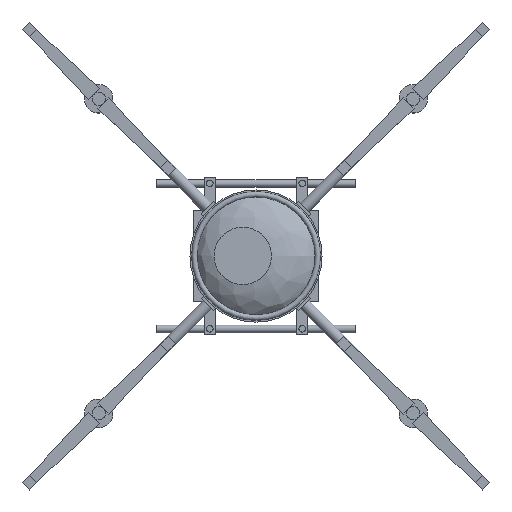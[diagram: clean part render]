
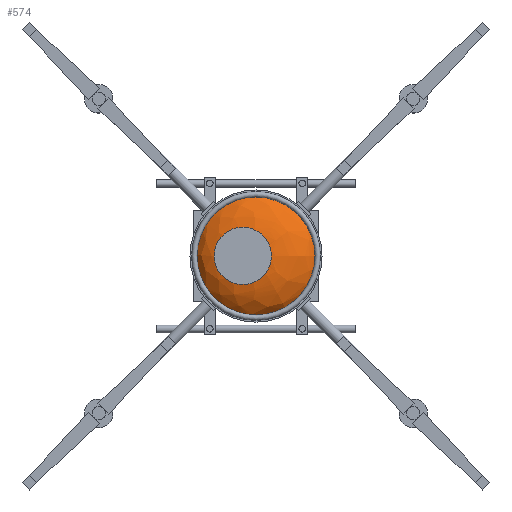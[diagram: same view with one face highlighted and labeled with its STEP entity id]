
A CAD part, top view. The second image highlights one B-rep face of the part: STEP entity #574.
In plain terms, the highlighted free-form (B-spline) face has degree [2, 2] with [7, 3] control points.
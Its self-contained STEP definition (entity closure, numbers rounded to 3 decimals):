
#574 = ADVANCED_FACE('',(#575),#598,.T.);
#575 = FACE_BOUND('',#576,.T.);
#576 = EDGE_LOOP('',(#577,#587,#597));
#577 = ORIENTED_EDGE('',*,*,#578,.F.);
#578 = EDGE_CURVE('',#579,#581,#583,.T.);
#579 = VERTEX_POINT('',#580);
#580 = CARTESIAN_POINT('',(114.,0.,34.));
#581 = VERTEX_POINT('',#582);
#582 = CARTESIAN_POINT('',(0.,0.,82.));
#583 = ( BOUNDED_CURVE() B_SPLINE_CURVE(2,(#584,#585,#586),
.UNSPECIFIED.,.F.,.F.) B_SPLINE_CURVE_WITH_KNOTS((3,3),(6.283,
7.854),.PIECEWISE_BEZIER_KNOTS.) CURVE() 
GEOMETRIC_REPRESENTATION_ITEM() RATIONAL_B_SPLINE_CURVE((1.,
0.707,1.)) REPRESENTATION_ITEM('') );
#584 = CARTESIAN_POINT('',(114.,0.,34.));
#585 = CARTESIAN_POINT('',(114.,0.,82.));
#586 = CARTESIAN_POINT('',(0.,0.,82.));
#587 = ORIENTED_EDGE('',*,*,#588,.T.);
#588 = EDGE_CURVE('',#579,#579,#589,.T.);
#589 = ( BOUNDED_CURVE() B_SPLINE_CURVE(2,(#590,#591,#592,#593,#594,#595
,#596),.UNSPECIFIED.,.T.,.F.) B_SPLINE_CURVE_WITH_KNOTS((1,2,2,2,2,1),(
    -2.094,0.,2.094,4.189,6.283,
8.378),.UNSPECIFIED.) CURVE() GEOMETRIC_REPRESENTATION_ITEM() 
RATIONAL_B_SPLINE_CURVE((1.,0.5,1.,0.5,1.,0.5,1.)) REPRESENTATION_ITEM(
  '') );
#590 = CARTESIAN_POINT('',(114.,0.,34.));
#591 = CARTESIAN_POINT('',(114.,197.454,34.));
#592 = CARTESIAN_POINT('',(-57.,98.727,34.));
#593 = CARTESIAN_POINT('',(-228.,0.,34.));
#594 = CARTESIAN_POINT('',(-57.,-98.727,34.));
#595 = CARTESIAN_POINT('',(114.,-197.454,34.));
#596 = CARTESIAN_POINT('',(114.,0.,34.));
#597 = ORIENTED_EDGE('',*,*,#578,.T.);
#598 = ( BOUNDED_SURFACE() B_SPLINE_SURFACE(2,2,(
    (#599,#600,#601)
    ,(#602,#603,#604)
    ,(#605,#606,#607)
    ,(#608,#609,#610)
    ,(#611,#612,#613)
    ,(#614,#615,#616)
    ,(#617,#618,#619
)),.UNSPECIFIED.,.T.,.F.,.F.) B_SPLINE_SURFACE_WITH_KNOTS((1,2,2,2,2,1),
  (3,3),(-2.094,0.,2.094,4.189,6.283,
    8.378),(0.,1.571),.UNSPECIFIED.) 
GEOMETRIC_REPRESENTATION_ITEM() RATIONAL_B_SPLINE_SURFACE((
    (1.,0.707,1.)
    ,(0.5,0.354,0.5)
    ,(1.,0.707,1.)
    ,(0.5,0.354,0.5)
    ,(1.,0.707,1.)
    ,(0.5,0.354,0.5)
,(1.,0.707,1.))) REPRESENTATION_ITEM('') SURFACE() );
#599 = CARTESIAN_POINT('',(114.,0.,34.));
#600 = CARTESIAN_POINT('',(114.,0.,82.));
#601 = CARTESIAN_POINT('',(0.,0.,82.));
#602 = CARTESIAN_POINT('',(114.,197.454,34.));
#603 = CARTESIAN_POINT('',(114.,197.454,82.));
#604 = CARTESIAN_POINT('',(0.,0.,82.));
#605 = CARTESIAN_POINT('',(-57.,98.727,34.));
#606 = CARTESIAN_POINT('',(-57.,98.727,82.));
#607 = CARTESIAN_POINT('',(0.,0.,82.));
#608 = CARTESIAN_POINT('',(-228.,0.,34.));
#609 = CARTESIAN_POINT('',(-228.,0.,82.));
#610 = CARTESIAN_POINT('',(0.,0.,82.));
#611 = CARTESIAN_POINT('',(-57.,-98.727,34.));
#612 = CARTESIAN_POINT('',(-57.,-98.727,82.));
#613 = CARTESIAN_POINT('',(0.,0.,82.));
#614 = CARTESIAN_POINT('',(114.,-197.454,34.));
#615 = CARTESIAN_POINT('',(114.,-197.454,82.));
#616 = CARTESIAN_POINT('',(0.,0.,82.));
#617 = CARTESIAN_POINT('',(114.,0.,34.));
#618 = CARTESIAN_POINT('',(114.,0.,82.));
#619 = CARTESIAN_POINT('',(0.,0.,82.));
